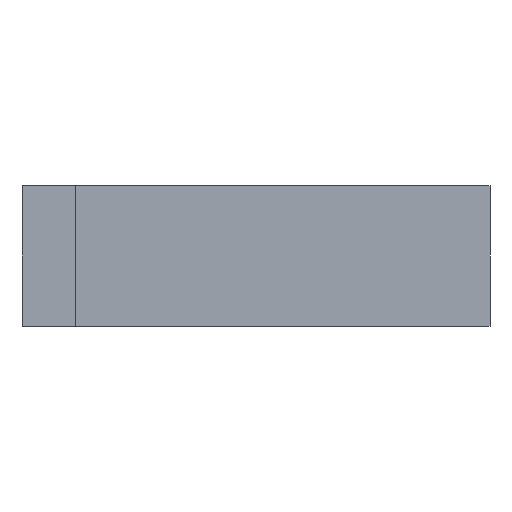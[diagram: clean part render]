
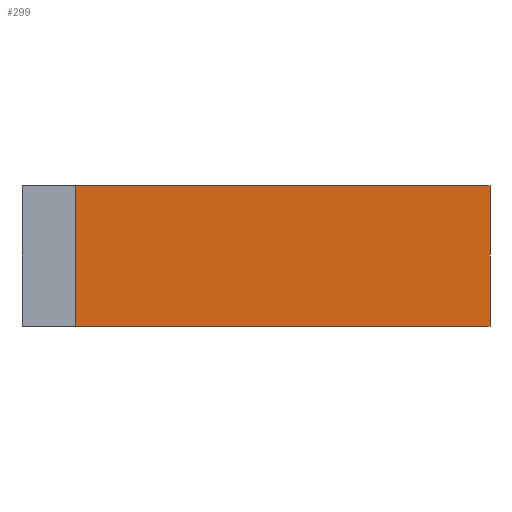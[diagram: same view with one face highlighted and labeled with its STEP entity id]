
A CAD part, front view. The second image highlights one B-rep face of the part: STEP entity #299.
In plain terms, the highlighted planar face has unit normal (0, -1, 0).
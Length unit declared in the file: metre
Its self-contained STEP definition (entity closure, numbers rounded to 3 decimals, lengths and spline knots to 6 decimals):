
#32=ORIENTED_EDGE('',*,*,#111,.T.);
#33=ORIENTED_EDGE('',*,*,#112,.F.);
#34=ORIENTED_EDGE('',*,*,#113,.F.);
#35=ORIENTED_EDGE('',*,*,#108,.T.);
#108=EDGE_CURVE('',#148,#147,#174,.T.);
#111=EDGE_CURVE('',#147,#150,#177,.T.);
#112=EDGE_CURVE('',#151,#150,#178,.T.);
#113=EDGE_CURVE('',#148,#151,#179,.T.);
#147=VERTEX_POINT('',#446);
#148=VERTEX_POINT('',#448);
#150=VERTEX_POINT('',#454);
#151=VERTEX_POINT('',#456);
#174=LINE('',#447,#210);
#177=LINE('',#453,#213);
#178=LINE('',#455,#214);
#179=LINE('',#457,#215);
#210=VECTOR('',#365,1.);
#213=VECTOR('',#370,1.);
#214=VECTOR('',#371,1.);
#215=VECTOR('',#372,1.);
#243=EDGE_LOOP('',(#32,#33,#34,#35));
#265=FACE_BOUND('',#243,.T.);
#285=PLANE('',#330);
#299=ADVANCED_FACE('',(#265),#285,.F.);
#330=AXIS2_PLACEMENT_3D('',#452,#368,#369);
#365=DIRECTION('',(0.,0.,-1.));
#368=DIRECTION('',(0.,1.,0.));
#369=DIRECTION('',(0.,0.,1.));
#370=DIRECTION('',(1.,0.,0.));
#371=DIRECTION('',(0.,0.,-1.));
#372=DIRECTION('',(1.,0.,0.));
#446=CARTESIAN_POINT('',(0.001252,-0.392913,0.));
#447=CARTESIAN_POINT('',(0.001252,-0.392913,0.0033));
#448=CARTESIAN_POINT('',(0.001252,-0.392913,0.0033));
#452=CARTESIAN_POINT('',(0.006123,-0.392913,0.0033));
#453=CARTESIAN_POINT('',(0.006123,-0.392913,0.));
#454=CARTESIAN_POINT('',(0.010993,-0.392913,0.));
#455=CARTESIAN_POINT('',(0.010993,-0.392913,0.0033));
#456=CARTESIAN_POINT('',(0.010993,-0.392913,0.0033));
#457=CARTESIAN_POINT('',(0.006123,-0.392913,0.0033));
